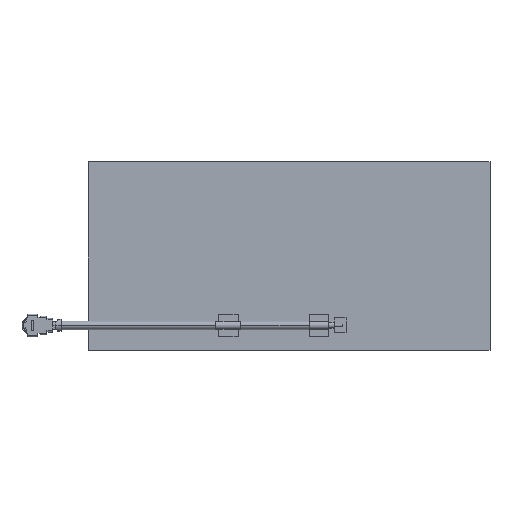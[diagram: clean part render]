
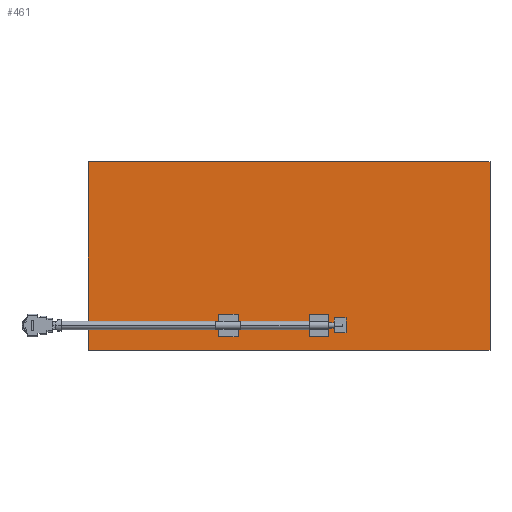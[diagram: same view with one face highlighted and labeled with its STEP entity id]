
A CAD part, top view. The second image highlights one B-rep face of the part: STEP entity #461.
In plain terms, the highlighted planar face has unit normal (0, 0, 1).
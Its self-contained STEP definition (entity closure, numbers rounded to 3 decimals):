
#15=DIRECTION('',(0.,-1.,0.));
#16=VECTOR('',#15,25.101);
#17=CARTESIAN_POINT('',(50.3,26.8,0.));
#18=LINE('',#17,#16);
#23=DIRECTION('',(-1.,0.,0.));
#24=VECTOR('',#23,53.6);
#25=CARTESIAN_POINT('',(50.3,1.699,0.));
#26=LINE('',#25,#24);
#30=DIRECTION('',(0.,1.,0.));
#31=VECTOR('',#30,25.101);
#32=CARTESIAN_POINT('',(-3.3,1.699,0.));
#33=LINE('',#32,#31);
#37=DIRECTION('',(1.,0.,0.));
#38=VECTOR('',#37,53.6);
#39=CARTESIAN_POINT('',(-3.3,26.8,0.));
#40=LINE('',#39,#38);
#100=DIRECTION('',(0.,1.,0.));
#101=VECTOR('',#100,2.);
#102=CARTESIAN_POINT('',(29.5,3.999,0.));
#103=LINE('',#102,#101);
#114=DIRECTION('',(1.,0.,0.));
#115=VECTOR('',#114,1.6);
#116=CARTESIAN_POINT('',(29.5,5.999,0.));
#117=LINE('',#116,#115);
#128=DIRECTION('',(0.,-1.,0.));
#129=VECTOR('',#128,2.);
#130=CARTESIAN_POINT('',(31.1,5.999,0.));
#131=LINE('',#130,#129);
#142=DIRECTION('',(-1.,0.,0.));
#143=VECTOR('',#142,1.6);
#144=CARTESIAN_POINT('',(31.1,3.999,0.));
#145=LINE('',#144,#143);
#184=DIRECTION('',(1.,0.,0.));
#185=VECTOR('',#184,2.6);
#186=CARTESIAN_POINT('',(26.2,6.499,0.));
#187=LINE('',#186,#185);
#198=DIRECTION('',(0.,-1.,0.));
#199=VECTOR('',#198,3.);
#200=CARTESIAN_POINT('',(28.8,6.499,0.));
#201=LINE('',#200,#199);
#212=DIRECTION('',(-1.,0.,0.));
#213=VECTOR('',#212,2.6);
#214=CARTESIAN_POINT('',(28.8,3.499,0.));
#215=LINE('',#214,#213);
#226=DIRECTION('',(0.,1.,0.));
#227=VECTOR('',#226,3.);
#228=CARTESIAN_POINT('',(26.2,3.499,0.));
#229=LINE('',#228,#227);
#268=DIRECTION('',(0.,-1.,0.));
#269=VECTOR('',#268,3.);
#270=CARTESIAN_POINT('',(16.7,6.499,0.));
#271=LINE('',#270,#269);
#282=DIRECTION('',(-1.,0.,0.));
#283=VECTOR('',#282,2.6);
#284=CARTESIAN_POINT('',(16.7,3.499,0.));
#285=LINE('',#284,#283);
#296=DIRECTION('',(0.,1.,0.));
#297=VECTOR('',#296,3.);
#298=CARTESIAN_POINT('',(14.1,3.499,0.));
#299=LINE('',#298,#297);
#310=DIRECTION('',(1.,0.,0.));
#311=VECTOR('',#310,2.6);
#312=CARTESIAN_POINT('',(14.1,6.499,0.));
#313=LINE('',#312,#311);
#352=CARTESIAN_POINT('',(50.3,26.8,0.));
#353=CARTESIAN_POINT('',(50.3,1.699,0.));
#354=VERTEX_POINT('',#352);
#355=VERTEX_POINT('',#353);
#356=CARTESIAN_POINT('',(-3.3,1.699,0.));
#357=VERTEX_POINT('',#356);
#358=CARTESIAN_POINT('',(-3.3,26.8,0.));
#359=VERTEX_POINT('',#358);
#360=CARTESIAN_POINT('',(29.5,3.999,0.));
#361=CARTESIAN_POINT('',(29.5,5.999,0.));
#362=VERTEX_POINT('',#360);
#363=VERTEX_POINT('',#361);
#364=CARTESIAN_POINT('',(31.1,3.999,0.));
#365=VERTEX_POINT('',#364);
#366=CARTESIAN_POINT('',(31.1,5.999,0.));
#367=VERTEX_POINT('',#366);
#368=CARTESIAN_POINT('',(26.2,6.499,0.));
#369=CARTESIAN_POINT('',(28.8,6.499,0.));
#370=VERTEX_POINT('',#368);
#371=VERTEX_POINT('',#369);
#372=CARTESIAN_POINT('',(26.2,3.499,0.));
#373=VERTEX_POINT('',#372);
#374=CARTESIAN_POINT('',(28.8,3.499,0.));
#375=VERTEX_POINT('',#374);
#376=CARTESIAN_POINT('',(16.7,6.499,0.));
#377=CARTESIAN_POINT('',(16.7,3.499,0.));
#378=VERTEX_POINT('',#376);
#379=VERTEX_POINT('',#377);
#380=CARTESIAN_POINT('',(14.1,6.499,0.));
#381=VERTEX_POINT('',#380);
#382=CARTESIAN_POINT('',(14.1,3.499,0.));
#383=VERTEX_POINT('',#382);
#416=CARTESIAN_POINT('',(0.,0.,0.));
#417=DIRECTION('',(0.,0.,-1.));
#418=DIRECTION('',(-1.,0.,0.));
#419=AXIS2_PLACEMENT_3D('',#416,#417,#418);
#420=PLANE('',#419);
#422=ORIENTED_EDGE('',*,*,#421,.T.);
#424=ORIENTED_EDGE('',*,*,#423,.T.);
#426=ORIENTED_EDGE('',*,*,#425,.T.);
#428=ORIENTED_EDGE('',*,*,#427,.T.);
#429=EDGE_LOOP('',(#422,#424,#426,#428));
#430=FACE_OUTER_BOUND('',#429,.F.);
#432=ORIENTED_EDGE('',*,*,#431,.F.);
#434=ORIENTED_EDGE('',*,*,#433,.F.);
#436=ORIENTED_EDGE('',*,*,#435,.F.);
#438=ORIENTED_EDGE('',*,*,#437,.F.);
#439=EDGE_LOOP('',(#432,#434,#436,#438));
#440=FACE_BOUND('',#439,.F.);
#442=ORIENTED_EDGE('',*,*,#441,.F.);
#444=ORIENTED_EDGE('',*,*,#443,.F.);
#446=ORIENTED_EDGE('',*,*,#445,.F.);
#448=ORIENTED_EDGE('',*,*,#447,.F.);
#449=EDGE_LOOP('',(#442,#444,#446,#448));
#450=FACE_BOUND('',#449,.F.);
#452=ORIENTED_EDGE('',*,*,#451,.F.);
#454=ORIENTED_EDGE('',*,*,#453,.F.);
#456=ORIENTED_EDGE('',*,*,#455,.F.);
#458=ORIENTED_EDGE('',*,*,#457,.F.);
#459=EDGE_LOOP('',(#452,#454,#456,#458));
#460=FACE_BOUND('',#459,.F.);
#421=EDGE_CURVE('',#354,#355,#18,.T.);
#423=EDGE_CURVE('',#355,#357,#26,.T.);
#425=EDGE_CURVE('',#357,#359,#33,.T.);
#427=EDGE_CURVE('',#359,#354,#40,.T.);
#431=EDGE_CURVE('',#362,#363,#103,.T.);
#433=EDGE_CURVE('',#365,#362,#145,.T.);
#435=EDGE_CURVE('',#367,#365,#131,.T.);
#437=EDGE_CURVE('',#363,#367,#117,.T.);
#441=EDGE_CURVE('',#370,#371,#187,.T.);
#443=EDGE_CURVE('',#373,#370,#229,.T.);
#445=EDGE_CURVE('',#375,#373,#215,.T.);
#447=EDGE_CURVE('',#371,#375,#201,.T.);
#451=EDGE_CURVE('',#378,#379,#271,.T.);
#453=EDGE_CURVE('',#381,#378,#313,.T.);
#455=EDGE_CURVE('',#383,#381,#299,.T.);
#457=EDGE_CURVE('',#379,#383,#285,.T.);
#461=ADVANCED_FACE('',(#430,#440,#450,#460),#420,.F.);
